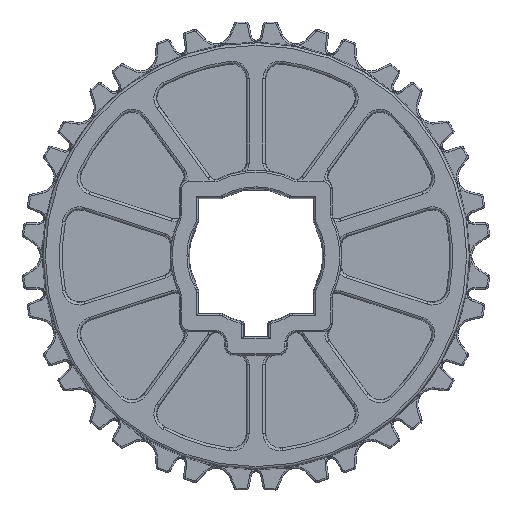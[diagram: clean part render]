
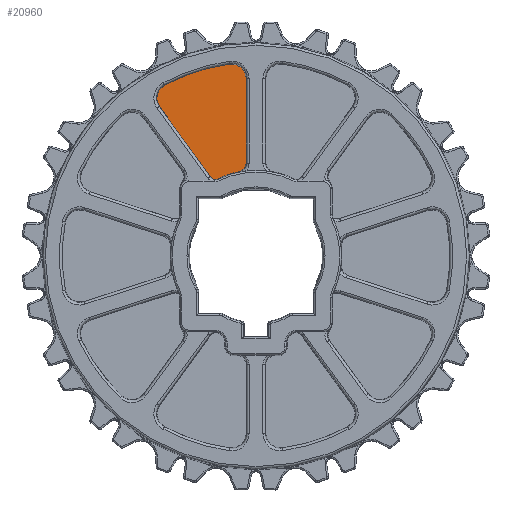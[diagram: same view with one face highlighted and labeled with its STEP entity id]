
A CAD part, top view. The second image highlights one B-rep face of the part: STEP entity #20960.
In plain terms, the highlighted planar face has unit normal (0, 0, 1).
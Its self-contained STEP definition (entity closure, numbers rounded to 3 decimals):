
#18586=FACE_OUTER_BOUND('',#24165,.T.);
#20960=ADVANCED_FACE('',(#18586),#23329,.T.);
#23329=PLANE('',#55283);
#24165=EDGE_LOOP('',(#34802,#34803,#34804,#34805,#34806,#34807,#34808,#34809,
#34810));
#26581=CIRCLE('',#55224,3.);
#26597=CIRCLE('',#55246,29.);
#26617=CIRCLE('',#55282,65.322);
#28032=B_SPLINE_CURVE_WITH_KNOTS('',3,(#68885,#68886,#68887,#68888,#68889,
#68890),.UNSPECIFIED.,.F.,.F.,(4,2,4),(0.,0.5,1.),.UNSPECIFIED.);
#28033=B_SPLINE_CURVE_WITH_KNOTS('',3,(#68894,#68895,#68896,#68897,#68898,
#68899),.UNSPECIFIED.,.F.,.F.,(4,2,4),(0.,0.5,1.),.UNSPECIFIED.);
#28034=B_SPLINE_CURVE_WITH_KNOTS('',3,(#68900,#68901,#68902,#68903,#68904,
#68905,#68906),.UNSPECIFIED.,.F.,.F.,(4,3,4),(0.,0.5,1.),
 .UNSPECIFIED.);
#28035=B_SPLINE_CURVE_WITH_KNOTS('',3,(#68907,#68908,#68909,#68910,#68911,
#68912,#68913,#68914,#68915,#68916,#68917,#68918,#68919),.UNSPECIFIED.,
 .F.,.F.,(4,3,3,3,4),(0.,0.246,0.491,0.737,
1.),.UNSPECIFIED.);
#30348=LINE('',#68852,#32378);
#30351=LINE('',#68875,#32381);
#32378=VECTOR('',#58622,1.);
#32381=VECTOR('',#58627,1.);
#34802=ORIENTED_EDGE('',*,*,#49653,.T.);
#34803=ORIENTED_EDGE('',*,*,#49655,.F.);
#34804=ORIENTED_EDGE('',*,*,#49656,.T.);
#34805=ORIENTED_EDGE('',*,*,#49657,.F.);
#34806=ORIENTED_EDGE('',*,*,#49648,.T.);
#34807=ORIENTED_EDGE('',*,*,#49658,.F.);
#34808=ORIENTED_EDGE('',*,*,#49479,.F.);
#34809=ORIENTED_EDGE('',*,*,#49521,.T.);
#34810=ORIENTED_EDGE('',*,*,#49659,.F.);
#46053=VERTEX_POINT('',#67938);
#46054=VERTEX_POINT('',#67940);
#46088=VERTEX_POINT('',#68147);
#46192=VERTEX_POINT('',#68850);
#46194=VERTEX_POINT('',#68853);
#46198=VERTEX_POINT('',#68874);
#46199=VERTEX_POINT('',#68876);
#46200=VERTEX_POINT('',#68891);
#46201=VERTEX_POINT('',#68893);
#49479=EDGE_CURVE('',#46053,#46054,#26581,.T.);
#49521=EDGE_CURVE('',#46053,#46088,#26597,.T.);
#49648=EDGE_CURVE('',#46194,#46192,#30348,.T.);
#49653=EDGE_CURVE('',#46199,#46198,#30351,.T.);
#49655=EDGE_CURVE('',#46200,#46198,#28032,.T.);
#49656=EDGE_CURVE('',#46200,#46201,#26617,.T.);
#49657=EDGE_CURVE('',#46194,#46201,#28033,.T.);
#49658=EDGE_CURVE('',#46054,#46192,#28034,.T.);
#49659=EDGE_CURVE('',#46199,#46088,#28035,.T.);
#55224=AXIS2_PLACEMENT_3D('',#67939,#58462,#58463);
#55246=AXIS2_PLACEMENT_3D('',#68148,#58518,#58519);
#55282=AXIS2_PLACEMENT_3D('',#68892,#58630,#58631);
#55283=AXIS2_PLACEMENT_3D('',#68920,#58632,#58633);
#58462=DIRECTION('',(0.,0.,-1.));
#58463=DIRECTION('',(-1.,0.,0.));
#58518=DIRECTION('',(0.,0.,-1.));
#58519=DIRECTION('',(-1.,0.,0.));
#58622=DIRECTION('',(0.588,-0.809,0.));
#58627=DIRECTION('',(0.,1.,0.));
#58630=DIRECTION('',(0.,0.,1.));
#58631=DIRECTION('',(1.,0.,0.));
#58632=DIRECTION('',(0.,0.,1.));
#58633=DIRECTION('',(0.,-1.,0.));
#67938=CARTESIAN_POINT('',(137.266,26.055,-15.932));
#67939=CARTESIAN_POINT('',(135.949,28.75,-15.932));
#67940=CARTESIAN_POINT('',(135.949,25.75,-15.932));
#68147=CARTESIAN_POINT('',(144.304,28.435,-15.932));
#68148=CARTESIAN_POINT('',(150.,0.,-15.932));
#68850=CARTESIAN_POINT('',(134.599,26.786,-15.932));
#68852=CARTESIAN_POINT('',(181.829,-38.219,-15.932));
#68853=CARTESIAN_POINT('',(117.537,50.271,-15.932));
#68874=CARTESIAN_POINT('',(146.715,59.751,-15.932));
#68875=CARTESIAN_POINT('',(146.715,-47.404,-15.932));
#68876=CARTESIAN_POINT('',(146.715,31.376,-15.932));
#68885=CARTESIAN_POINT('',(141.029,64.703,-15.932));
#68886=CARTESIAN_POINT('',(142.453,64.9,-15.932));
#68887=CARTESIAN_POINT('',(143.931,64.452,-15.932));
#68888=CARTESIAN_POINT('',(146.068,62.589,-15.932));
#68889=CARTESIAN_POINT('',(146.715,61.189,-15.932));
#68890=CARTESIAN_POINT('',(146.715,59.751,-15.932));
#68891=CARTESIAN_POINT('',(141.029,64.703,-15.932));
#68892=CARTESIAN_POINT('',(150.,0.,-15.932));
#68893=CARTESIAN_POINT('',(119.226,57.619,-15.932));
#68894=CARTESIAN_POINT('',(117.537,50.271,-15.932));
#68895=CARTESIAN_POINT('',(116.692,51.434,-15.932));
#68896=CARTESIAN_POINT('',(116.392,52.949,-15.932));
#68897=CARTESIAN_POINT('',(117.027,55.711,-15.932));
#68898=CARTESIAN_POINT('',(117.958,56.941,-15.932));
#68899=CARTESIAN_POINT('',(119.226,57.619,-15.932));
#68900=CARTESIAN_POINT('',(135.949,25.75,-15.932));
#68901=CARTESIAN_POINT('',(135.681,25.853,-15.932));
#68902=CARTESIAN_POINT('',(135.426,25.996,-15.932));
#68903=CARTESIAN_POINT('',(135.199,26.17,-15.932));
#68904=CARTESIAN_POINT('',(134.972,26.345,-15.932));
#68905=CARTESIAN_POINT('',(134.768,26.555,-15.932));
#68906=CARTESIAN_POINT('',(134.599,26.786,-15.932));
#68907=CARTESIAN_POINT('',(146.715,31.376,-15.932));
#68908=CARTESIAN_POINT('',(146.715,31.041,-15.932));
#68909=CARTESIAN_POINT('',(146.657,30.7,-15.932));
#68910=CARTESIAN_POINT('',(146.546,30.383,-15.932));
#68911=CARTESIAN_POINT('',(146.435,30.067,-15.932));
#68912=CARTESIAN_POINT('',(146.267,29.765,-15.932));
#68913=CARTESIAN_POINT('',(146.057,29.502,-15.932));
#68914=CARTESIAN_POINT('',(145.848,29.24,-15.932));
#68915=CARTESIAN_POINT('',(145.59,29.011,-15.932));
#68916=CARTESIAN_POINT('',(145.305,28.833,-15.932));
#68917=CARTESIAN_POINT('',(145.001,28.643,-15.932));
#68918=CARTESIAN_POINT('',(144.656,28.506,-15.932));
#68919=CARTESIAN_POINT('',(144.304,28.435,-15.932));
#68920=CARTESIAN_POINT('',(217.841,16.715,-15.932));
